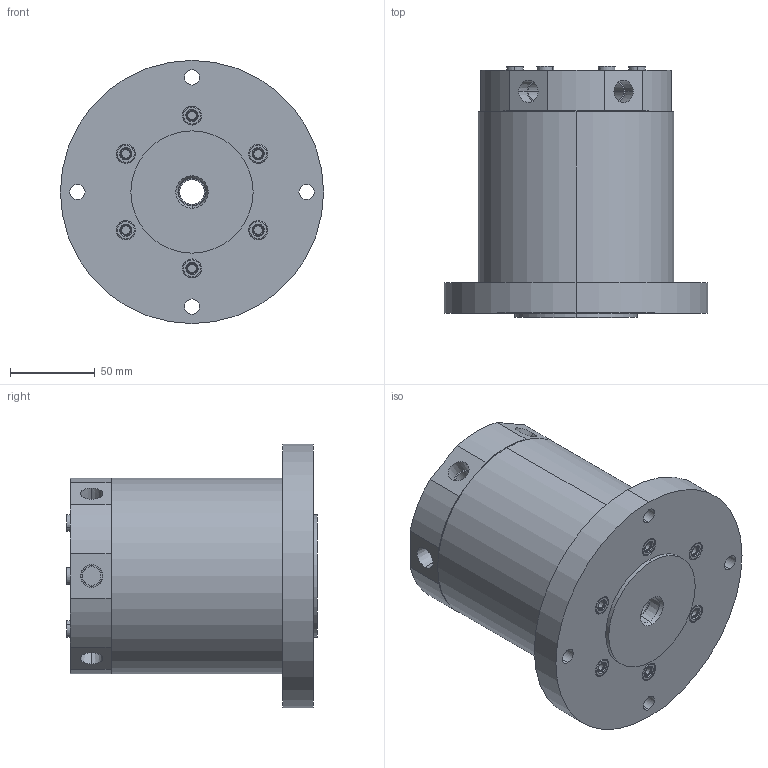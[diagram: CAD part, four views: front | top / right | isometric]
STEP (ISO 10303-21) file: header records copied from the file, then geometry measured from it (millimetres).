
FILE_DESCRIPTION((' '),'2;1');
FILE_NAME( 'PTMB06.x_t.stp', '2025-01-06T11:27:59', (' '), ('--- Datakit www.datakit.com---'), ' Datakit CrossCadWare V2024.1 Dec 21 2023', 'Mastercam 2025', ' ');
FILE_SCHEMA(('AUTOMOTIVE_DESIGN { 1 0 10303 214 1 1 1 1 }'));
Length unit declared in the file: millimetre
Products named in the file (1): PTMB06
Bounding box: 155 x 147.73 x 155 mm (x, y, z)
Volume: 1588397.7 mm3; surface area: 136409.5 mm2
Topology: 13 solids, 14 shells, 376 faces, 920 edges, 626 vertices
Faces by surface type: cylinder 136, plane 136, cone 56, torus 48
Entity records: 11977 total; most frequent: CARTESIAN_POINT 2239, DIRECTION 2216, ORIENTED_EDGE 1840, AXIS2_PLACEMENT_3D 943, EDGE_CURVE 920, VERTEX_POINT 626, CIRCLE 566, EDGE_LOOP 466
